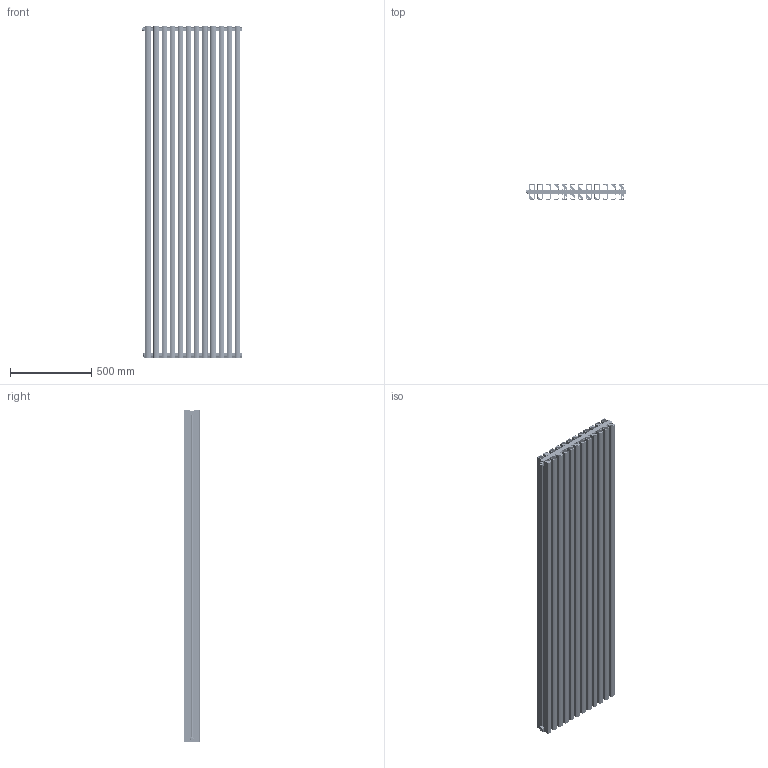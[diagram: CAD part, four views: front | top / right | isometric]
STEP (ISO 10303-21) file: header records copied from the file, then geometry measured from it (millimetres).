
FILE_DESCRIPTION (( 'STEP AP214' ), '1' );
FILE_NAME ('TONALE 2000_13.STEP', '2024-07-22T09:56:27', ( '' ), ( '' ), 'SwSTEP 2.0', 'SolidWorks 2024', '' );
FILE_SCHEMA (( 'AUTOMOTIVE_DESIGN' ));
Length unit declared in the file: millimetre
Products named in the file (12): O-RING 2,4 D16,3; Art.011; P3EL00004A_12 elementi; P3EL00002A_2000; EPC10022D_1000; P3EL00004A_12 elementi CS; ETV600G_foro Ø 4; Coperchietto; Art.041; Assieme vitone con o_ring; TONALE 2000_13
Assembly tree (63 placements, depth 3):
  TONALE 2000_13
    EPC10022D_1000  x12
    Art.011  x3
      Art.011
      Coperchietto
    Art.041
    Art.011  x4
    P3EL00002A_2000  x12
    P3EL00004A_12 elementi CS
    Assieme vitone con o_ring  x24
      ETV600G_foro Ø 4
      O-RING 2,4 D16,3
    P3EL00004A_12 elementi
Bounding box: 616.3 x 95 x 2039.3 mm (x, y, z)
Volume: 14425744.7 mm3; surface area: 17653374.3 mm2
Topology: 112 solids, 112 shells, 7108 faces, 19575 edges, 12454 vertices
Faces by surface type: plane 3014, cylinder 2992, cone 680, torus 224, bspline 150, sphere 48
Entity records: 38243 total; most frequent: CARTESIAN_POINT 14434, DIRECTION 4901, ORIENTED_EDGE 4862, EDGE_CURVE 2431, AXIS2_PLACEMENT_3D 1776, VERTEX_POINT 1575, LINE 1349, VECTOR 1349
